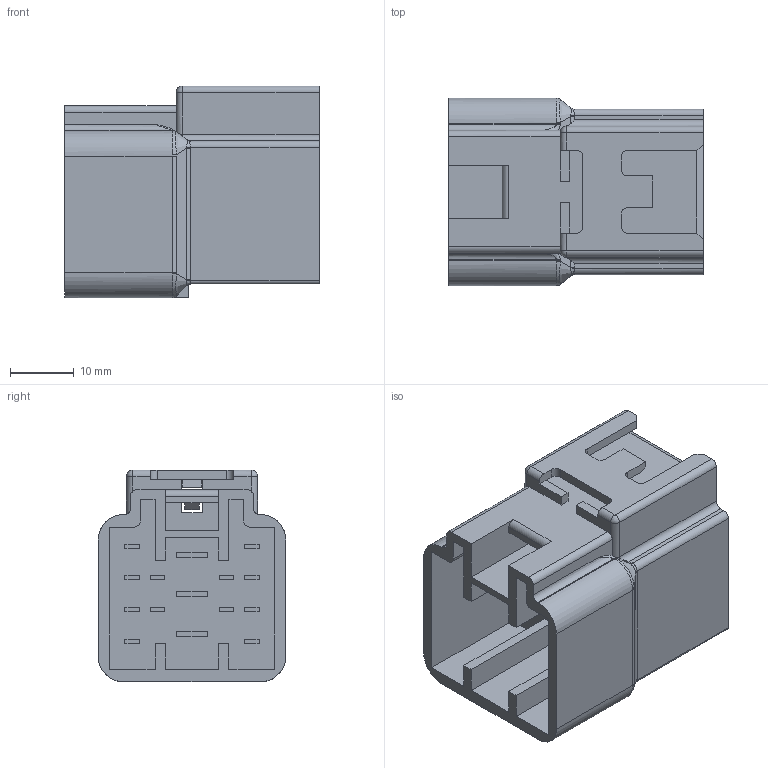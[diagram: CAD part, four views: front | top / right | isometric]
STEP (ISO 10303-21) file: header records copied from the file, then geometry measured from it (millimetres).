
FILE_DESCRIPTION(('CATIA V5 STEP Exchange'),'2;1');
FILE_NAME('N:\C-DAM_MyDesk\ENV\11093U\1設\6241-0241.stp','2013-02-28T04:39:54+00:00',('none'),('none'),'CATIA Version 5 Release 20 SP 4 (IN-10)','CATIA V5 STEP AP203','none');
FILE_SCHEMA(('CONFIG_CONTROL_DESIGN'));
Length unit declared in the file: millimetre
Products named in the file (1): 6241-0241
Bounding box: 40 x 29.5 x 33.3 mm (x, y, z)
Volume: 19241.9 mm3; surface area: 10512.1 mm2
Topology: 1 solids, 1 shells, 329 faces, 843 edges, 543 vertices
Faces by surface type: plane 254, bspline 41, cylinder 30, torus 2, sphere 2
Entity records: 11111 total; most frequent: CARTESIAN_POINT 3807, ORIENTED_EDGE 1682, DIRECTION 1127, EDGE_CURVE 841, VECTOR 673, LINE 673, VERTEX_POINT 543, EDGE_LOOP 362
